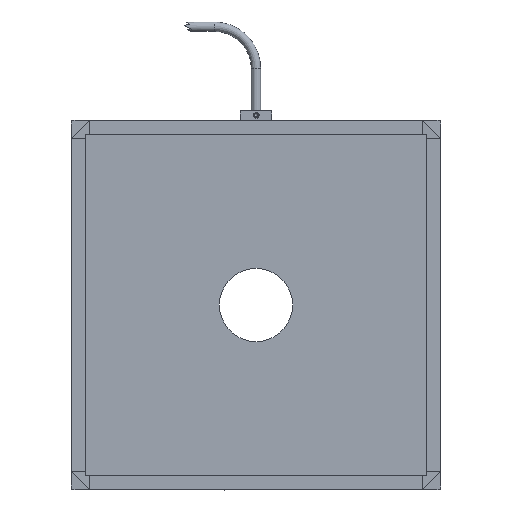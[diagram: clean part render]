
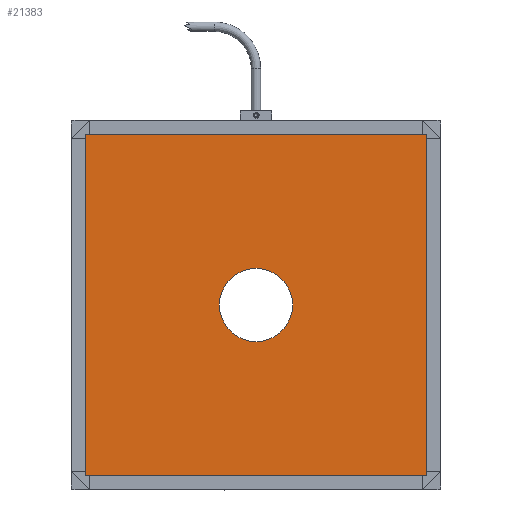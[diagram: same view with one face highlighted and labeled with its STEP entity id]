
A CAD part, front view. The second image highlights one B-rep face of the part: STEP entity #21383.
In plain terms, the highlighted planar face has unit normal (0, -1, 0).
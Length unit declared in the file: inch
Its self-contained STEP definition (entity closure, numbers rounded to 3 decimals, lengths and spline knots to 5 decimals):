
#562 = DIRECTION ( 'NONE',  ( 0., 1., 0. ) ) ;
#742 = CARTESIAN_POINT ( 'NONE',  ( 0., 0., -8.34 ) ) ;
#2047 = ORIENTED_EDGE ( 'NONE', *, *, #15258, .T. ) ;
#3476 = CIRCLE ( 'NONE', #6879, 0.875 ) ;
#3507 = CARTESIAN_POINT ( 'NONE',  ( 8.245, 0., -0.095 ) ) ;
#4005 = EDGE_CURVE ( 'NONE', #19616, #23774, #30902, .T. ) ;
#4286 = VECTOR ( 'NONE', #36276, 39.37008 ) ;
#4720 = AXIS2_PLACEMENT_3D ( 'NONE', #742, #34508, #17630 ) ;
#4747 = CARTESIAN_POINT ( 'NONE',  ( 0.095, 0., -0.095 ) ) ;
#4785 = CIRCLE ( 'NONE', #8544, 0.875 ) ;
#4790 = ORIENTED_EDGE ( 'NONE', *, *, #15356, .T. ) ;
#4941 = EDGE_LOOP ( 'NONE', ( #10879, #28801 ) ) ;
#6856 = VERTEX_POINT ( 'NONE', #33339 ) ;
#6879 = AXIS2_PLACEMENT_3D ( 'NONE', #23380, #562, #23139 ) ;
#7312 = DIRECTION ( 'NONE',  ( 0., 0., 1. ) ) ;
#7900 = CARTESIAN_POINT ( 'NONE',  ( 8.245, 0., -8.245 ) ) ;
#8544 = AXIS2_PLACEMENT_3D ( 'NONE', #24606, #35653, #7312 ) ;
#8664 = VECTOR ( 'NONE', #13442, 39.37008 ) ;
#8747 = DIRECTION ( 'NONE',  ( 0., 0., 1. ) ) ;
#8912 = LINE ( 'NONE', #18422, #21874 ) ;
#9417 = VERTEX_POINT ( 'NONE', #19536 ) ;
#10652 = EDGE_LOOP ( 'NONE', ( #16750, #14357, #2047, #4790 ) ) ;
#10662 = CARTESIAN_POINT ( 'NONE',  ( 4.17, 0., -5.045 ) ) ;
#10879 = ORIENTED_EDGE ( 'NONE', *, *, #24334, .T. ) ;
#10902 = CARTESIAN_POINT ( 'NONE',  ( 0.095, 0., -8.245 ) ) ;
#11502 = CARTESIAN_POINT ( 'NONE',  ( 8.245, 0., -8.245 ) ) ;
#13442 = DIRECTION ( 'NONE',  ( 0., 0., -1. ) ) ;
#14357 = ORIENTED_EDGE ( 'NONE', *, *, #33528, .T. ) ;
#14641 = EDGE_CURVE ( 'NONE', #26708, #9417, #4785, .T. ) ;
#15258 = EDGE_CURVE ( 'NONE', #6856, #35610, #27366, .T. ) ;
#15293 = DIRECTION ( 'NONE',  ( -1., 0., 0. ) ) ;
#15356 = EDGE_CURVE ( 'NONE', #35610, #19616, #25178, .T. ) ;
#16750 = ORIENTED_EDGE ( 'NONE', *, *, #4005, .T. ) ;
#17630 = DIRECTION ( 'NONE',  ( 0., 0., -1. ) ) ;
#18422 = CARTESIAN_POINT ( 'NONE',  ( 8.245, 0., -0.095 ) ) ;
#19310 = CARTESIAN_POINT ( 'NONE',  ( 0.095, 0., -8.245 ) ) ;
#19536 = CARTESIAN_POINT ( 'NONE',  ( 4.17, 0., -3.295 ) ) ;
#19616 = VERTEX_POINT ( 'NONE', #7900 ) ;
#19886 = VECTOR ( 'NONE', #8747, 39.37008 ) ;
#21383 = ADVANCED_FACE ( 'NONE', ( #32419, #27152 ), #34636, .T. ) ;
#21874 = VECTOR ( 'NONE', #15293, 39.37008 ) ;
#23139 = DIRECTION ( 'NONE',  ( 0., 0., 1. ) ) ;
#23380 = CARTESIAN_POINT ( 'NONE',  ( 4.17, 0., -4.17 ) ) ;
#23774 = VERTEX_POINT ( 'NONE', #3507 ) ;
#24334 = EDGE_CURVE ( 'NONE', #9417, #26708, #3476, .T. ) ;
#24606 = CARTESIAN_POINT ( 'NONE',  ( 4.17, 0., -4.17 ) ) ;
#25178 = LINE ( 'NONE', #19310, #4286 ) ;
#26708 = VERTEX_POINT ( 'NONE', #10662 ) ;
#27152 = FACE_OUTER_BOUND ( 'NONE', #10652, .T. ) ;
#27366 = LINE ( 'NONE', #4747, #8664 ) ;
#28801 = ORIENTED_EDGE ( 'NONE', *, *, #14641, .T. ) ;
#30902 = LINE ( 'NONE', #11502, #19886 ) ;
#32419 = FACE_BOUND ( 'NONE', #4941, .T. ) ;
#33339 = CARTESIAN_POINT ( 'NONE',  ( 0.095, 0., -0.095 ) ) ;
#33528 = EDGE_CURVE ( 'NONE', #23774, #6856, #8912, .T. ) ;
#34508 = DIRECTION ( 'NONE',  ( 0., -1., 0. ) ) ;
#34636 = PLANE ( 'NONE',  #4720 ) ;
#35610 = VERTEX_POINT ( 'NONE', #10902 ) ;
#35653 = DIRECTION ( 'NONE',  ( 0., 1., 0. ) ) ;
#36276 = DIRECTION ( 'NONE',  ( 1., 0., 0. ) ) ;
